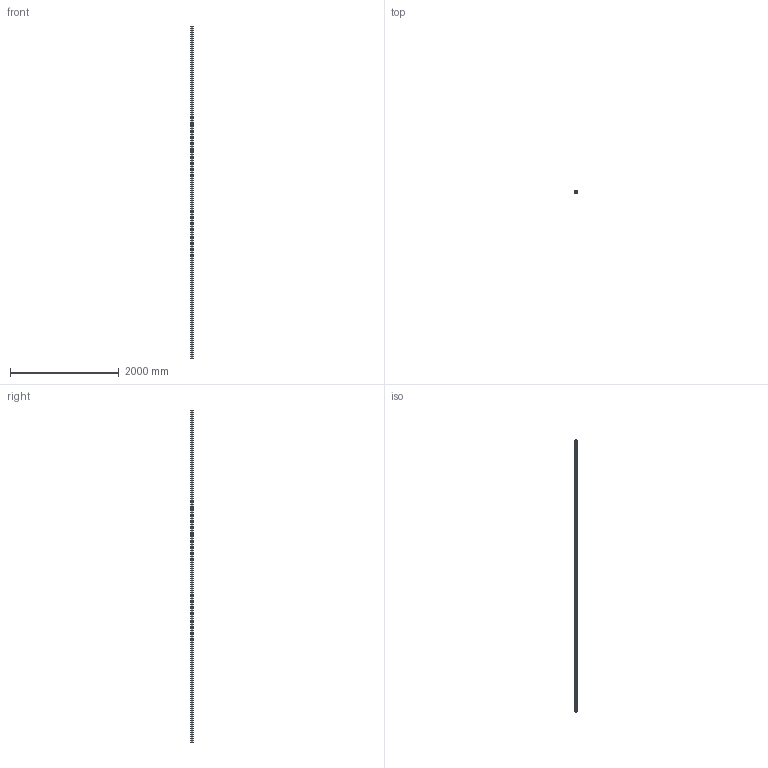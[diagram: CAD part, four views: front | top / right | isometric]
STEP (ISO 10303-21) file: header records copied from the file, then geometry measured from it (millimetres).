
FILE_DESCRIPTION (( 'STEP AP203' ), '1' );
FILE_NAME ('40x40 mm.STEP', '2012-07-04T19:40:48', ( '' ), ( '' ), 'SwSTEP 2.0', 'SolidWorks 2010', '' );
FILE_SCHEMA (( 'CONFIG_CONTROL_DESIGN' ));
Length unit declared in the file: millimetre
Products named in the file (1): 40x40 mm
Bounding box: 40 x 40 x 6100 mm (x, y, z)
Volume: 3295398.1 mm3; surface area: 3157565.5 mm2
Topology: 1 solids, 1 shells, 191 faces, 567 edges, 378 vertices
Faces by surface type: plane 114, cylinder 77
Entity records: 6512 total; most frequent: CARTESIAN_POINT 1137, ORIENTED_EDGE 1134, DIRECTION 1105, EDGE_CURVE 567, LINE 413, VECTOR 413, VERTEX_POINT 378, AXIS2_PLACEMENT_3D 346
